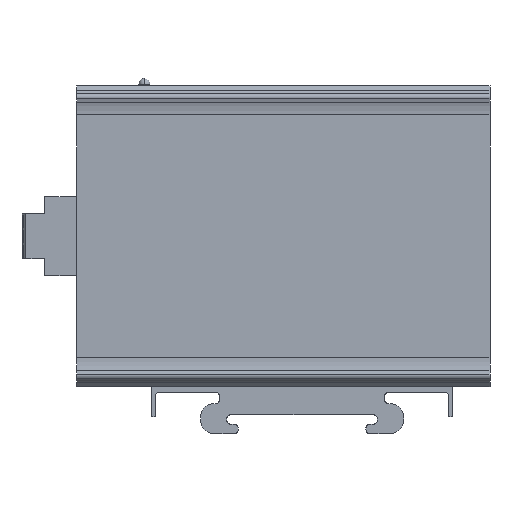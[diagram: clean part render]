
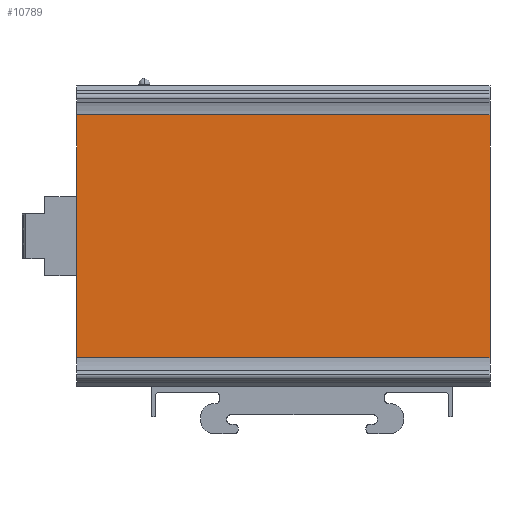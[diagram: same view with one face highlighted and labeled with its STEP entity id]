
A CAD part, left-side view. The second image highlights one B-rep face of the part: STEP entity #10789.
In plain terms, the highlighted planar face has unit normal (-1, 0, 0).
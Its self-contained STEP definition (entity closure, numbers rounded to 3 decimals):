
#469 = EDGE_CURVE ( 'NONE', #7316, #10536, #15523, .T. ) ;
#903 = CARTESIAN_POINT ( 'NONE',  ( 1., 110., -72.284 ) ) ;
#1047 = CARTESIAN_POINT ( 'NONE',  ( 1., 110., -72.284 ) ) ;
#2721 = CARTESIAN_POINT ( 'NONE',  ( 1., 110., -72.284 ) ) ;
#4379 = VERTEX_POINT ( 'NONE', #15119 ) ;
#4999 = CARTESIAN_POINT ( 'NONE',  ( 1., 110., -72.284 ) ) ;
#5204 = DIRECTION ( 'NONE',  ( 0., 0., -1. ) ) ;
#5348 = VECTOR ( 'NONE', #21356, 1000. ) ;
#6125 = EDGE_CURVE ( 'NONE', #4379, #10536, #20888, .T. ) ;
#6176 = EDGE_CURVE ( 'NONE', #14807, #7316, #18032, .T. ) ;
#6538 = VECTOR ( 'NONE', #13767, 1000. ) ;
#6598 = EDGE_LOOP ( 'NONE', ( #8196, #18058, #9563, #12377 ) ) ;
#7316 = VERTEX_POINT ( 'NONE', #20493 ) ;
#8031 = DIRECTION ( 'NONE',  ( 0., 0., 1. ) ) ;
#8196 = ORIENTED_EDGE ( 'NONE', *, *, #6125, .T. ) ;
#8390 = DIRECTION ( 'NONE',  ( 1., 0., 0. ) ) ;
#9563 = ORIENTED_EDGE ( 'NONE', *, *, #6176, .F. ) ;
#10536 = VERTEX_POINT ( 'NONE', #14010 ) ;
#10789 = ADVANCED_FACE ( 'NONE', ( #21143 ), #16637, .F. ) ;
#12377 = ORIENTED_EDGE ( 'NONE', *, *, #19502, .T. ) ;
#13627 = AXIS2_PLACEMENT_3D ( 'NONE', #4999, #8390, #5204 ) ;
#13767 = DIRECTION ( 'NONE',  ( 0., 0., 1. ) ) ;
#13768 = CARTESIAN_POINT ( 'NONE',  ( 1., 110., -7.716 ) ) ;
#14010 = CARTESIAN_POINT ( 'NONE',  ( 1., 0., -7.716 ) ) ;
#14807 = VERTEX_POINT ( 'NONE', #2721 ) ;
#14955 = VECTOR ( 'NONE', #8031, 1000. ) ;
#15119 = CARTESIAN_POINT ( 'NONE',  ( 1., 0., -72.284 ) ) ;
#15523 = LINE ( 'NONE', #13768, #17962 ) ;
#15628 = CARTESIAN_POINT ( 'NONE',  ( 1., 0., -72.284 ) ) ;
#16637 = PLANE ( 'NONE',  #13627 ) ;
#17849 = LINE ( 'NONE', #1047, #5348 ) ;
#17962 = VECTOR ( 'NONE', #20351, 1000. ) ;
#18032 = LINE ( 'NONE', #903, #14955 ) ;
#18058 = ORIENTED_EDGE ( 'NONE', *, *, #469, .F. ) ;
#19502 = EDGE_CURVE ( 'NONE', #14807, #4379, #17849, .T. ) ;
#20351 = DIRECTION ( 'NONE',  ( 0., -1., 0. ) ) ;
#20493 = CARTESIAN_POINT ( 'NONE',  ( 1., 110., -7.716 ) ) ;
#20888 = LINE ( 'NONE', #15628, #6538 ) ;
#21143 = FACE_OUTER_BOUND ( 'NONE', #6598, .T. ) ;
#21356 = DIRECTION ( 'NONE',  ( 0., -1., 0. ) ) ;
